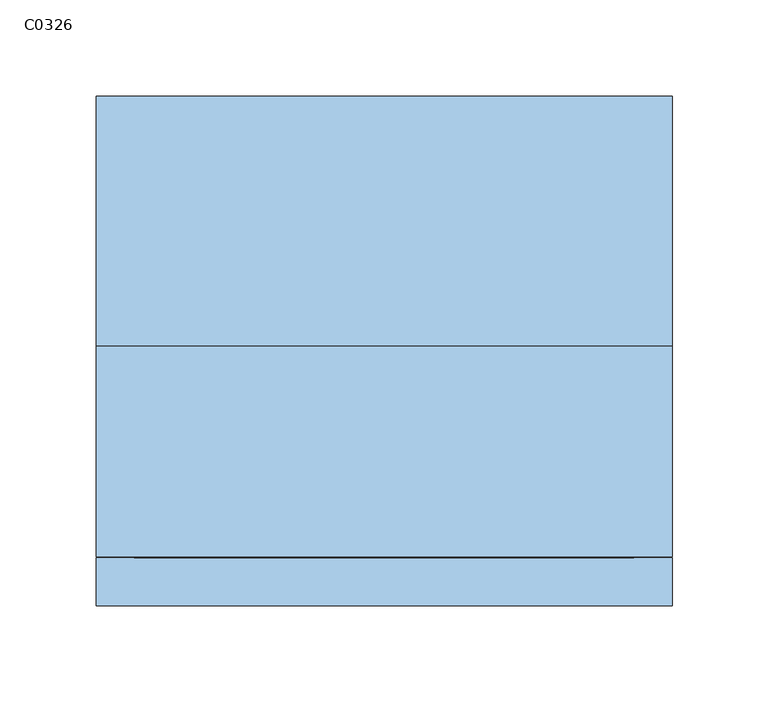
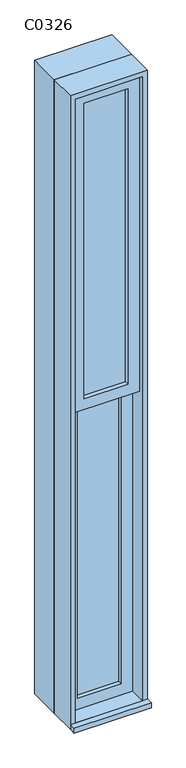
"""IFC4 building model written with IfcOpenShell, lengths in millimetres: window geometry, 上下拉窗1 : C0326."""

from ifc_helpers import new_model, si_unit, frame, origin, place, context, project, spatial, polyline, outline, extrude, source, transform, mapped, element, save


def c0326_266272ab(model_context):
    return source(origin(), model_context, "Body", "SweptSolid", [
        extrude(outline(polyline([(-85.0, -82.2615397), (-85.0, -72.2615397), (85.0, -72.2615397), (85.0, -82.2615397), (-85.0, -82.2615397)])), frame((0.0, 0.0, 2222.5), z_axis=(0.0, 0.0, 1.0), x_axis=(1.0, 0.0, 0.0)), (0.0, 0.0, 1.0), 1212.5),
        extrude(outline(polyline([(-85.0, -37.2615397), (-85.0, -27.2615397), (85.0, -27.2615397), (85.0, -37.2615397), (-85.0, -37.2615397)])), frame((0.0, 0.0, 965.0), z_axis=(0.0, 0.0, 1.0), x_axis=(1.0, 0.0, 0.0)), (0.0, 0.0, 1.0), 1212.5),
        extrude(outline(polyline([(2222.5, -130.0), (920.0, -130.0), (920.0, 130.0), (2222.5, 130.0), (2222.5, -130.0)]), holes=[polyline([(2177.5, -85.0), (2177.5, 85.0), (965.0, 85.0), (965.0, -85.0), (2177.5, -85.0)])]), frame((0.0, -54.7615397, 0.0), z_axis=(0.0, 1.0, 0.0), x_axis=(0.0, 0.0, 1.0)), (0.0, 0.0, 1.0), 45.0),
        extrude(outline(polyline([(3480.0, -130.0), (2177.5, -130.0), (2177.5, 130.0), (3480.0, 130.0), (3480.0, -130.0)]), holes=[polyline([(3435.0, -85.0), (3435.0, 85.0), (2222.5, 85.0), (2222.5, -85.0), (3435.0, -85.0)])]), frame((0.0, -99.7615397, 0.0), z_axis=(0.0, 1.0, 0.0), x_axis=(0.0, 0.0, 1.0)), (0.0, 0.0, 1.0), 45.0),
        extrude(outline(polyline([(3500.0, -150.0), (900.0, -150.0), (900.0, 150.0), (3500.0, 150.0), (3500.0, -150.0)]), holes=[polyline([(3468.0, -118.0), (3468.0, 118.0), (932.0, 118.0), (932.0, -118.0), (3468.0, -118.0)])]), frame((0.0, -9.7615397, 0.0), z_axis=(0.0, 1.0, 0.0), x_axis=(0.0, 0.0, 1.0)), (0.0, 0.0, 1.0), 130.0),
        extrude(outline(polyline([(3500.0, 150.0), (3500.0, -150.0), (900.0, -150.0), (900.0, 150.0), (3500.0, 150.0)]), holes=[polyline([(3480.0, 130.0), (920.0, 130.0), (920.0, -130.0), (3480.0, -130.0), (3480.0, 130.0)])]), frame((0.0, -119.7615397, 0.0), z_axis=(0.0, 1.0, 0.0), x_axis=(0.0, 0.0, 1.0)), (0.0, 0.0, 1.0), 110.0),
        extrude(outline(polyline([(-150.0, -144.7615397), (-150.0, -119.7615397), (150.0, -119.7615397), (150.0, -144.7615397), (-150.0, -144.7615397)])), frame((0.0, 0.0, 900.0), z_axis=(0.0, 0.0, 1.0), x_axis=(1.0, 0.0, 0.0)), (0.0, 0.0, 1.0), 20.0),
    ])


if __name__ == "__main__":
    model = new_model("IFC4")
    model_context = context("Model", 3, world=origin())
    ifc_project = project(units=[si_unit("LENGTHUNIT", "METRE", prefix="MILLI")], contexts=[model_context])
    site = spatial("IfcSite", under=ifc_project)
    building = spatial("IfcBuilding", under=site)
    placement = place(None, origin())
    c0326_shape = c0326_266272ab(model_context)
    element("IfcWindow", 1, ObjectType="上下拉窗1 : C0326", at=placement, inside=building, context=model_context, shape_type="MappedRepresentation", body=[
        mapped(c0326_shape, transform((0.0, 0.0, 0.0), x_axis=(1.0, 0.0, 0.0), y_axis=(0.0, 1.0, 0.0), z_axis=(0.0, 0.0, 1.0))),
    ])
    save(model, "model.ifc")
